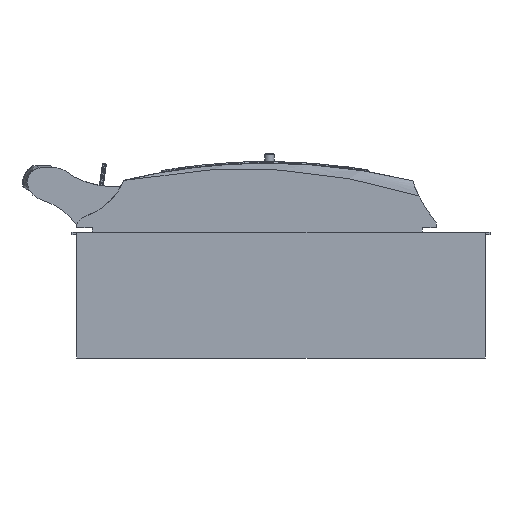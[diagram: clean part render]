
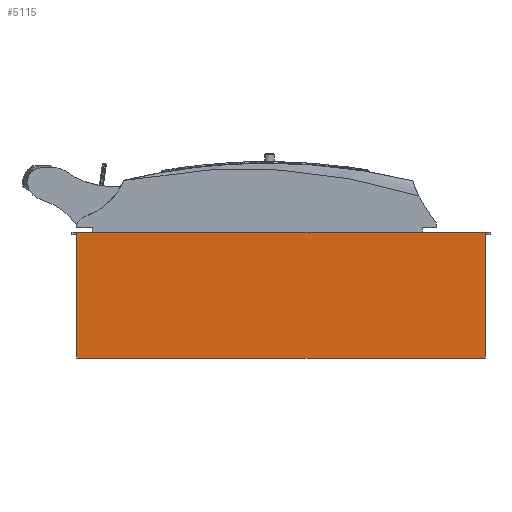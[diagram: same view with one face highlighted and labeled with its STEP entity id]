
A CAD part, front view. The second image highlights one B-rep face of the part: STEP entity #5115.
In plain terms, the highlighted planar face has unit normal (0, -1, 0).
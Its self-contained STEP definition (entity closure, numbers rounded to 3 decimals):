
#4099=PLANE('',#13776);
#5115=ADVANCED_FACE('',(#5770),#4099,.F.);
#5770=FACE_OUTER_BOUND('',#6374,.T.);
#6374=EDGE_LOOP('',(#9890,#9891,#9892,#9893));
#6919=LINE('',#25427,#7473);
#6923=LINE('',#25436,#7477);
#6924=LINE('',#25438,#7478);
#6925=LINE('',#25440,#7479);
#7473=VECTOR('',#15627,1.);
#7477=VECTOR('',#15633,1.);
#7478=VECTOR('',#15634,1.);
#7479=VECTOR('',#15635,1.);
#9890=ORIENTED_EDGE('',*,*,#12430,.T.);
#9891=ORIENTED_EDGE('',*,*,#12434,.F.);
#9892=ORIENTED_EDGE('',*,*,#12435,.F.);
#9893=ORIENTED_EDGE('',*,*,#12436,.T.);
#11114=VERTEX_POINT('',#25428);
#11115=VERTEX_POINT('',#25429);
#11118=VERTEX_POINT('',#25437);
#11119=VERTEX_POINT('',#25439);
#12430=EDGE_CURVE('',#11114,#11115,#6919,.T.);
#12434=EDGE_CURVE('',#11118,#11115,#6923,.T.);
#12435=EDGE_CURVE('',#11119,#11118,#6924,.T.);
#12436=EDGE_CURVE('',#11119,#11114,#6925,.T.);
#13776=AXIS2_PLACEMENT_3D('',#25441,#15636,#15637);
#15627=DIRECTION('',(1.,0.,0.));
#15633=DIRECTION('',(0.,0.,-1.));
#15634=DIRECTION('',(1.,0.,0.));
#15635=DIRECTION('',(0.,0.,-1.));
#15636=DIRECTION('',(0.,1.,0.));
#15637=DIRECTION('',(0.,0.,1.));
#25427=CARTESIAN_POINT('',(150.828,-104.,116.103));
#25428=CARTESIAN_POINT('',(-109.172,-104.,116.103));
#25429=CARTESIAN_POINT('',(150.828,-104.,116.103));
#25436=CARTESIAN_POINT('',(150.828,-104.,196.103));
#25437=CARTESIAN_POINT('',(150.828,-104.,196.103));
#25438=CARTESIAN_POINT('',(150.828,-104.,196.103));
#25439=CARTESIAN_POINT('',(-109.172,-104.,196.103));
#25440=CARTESIAN_POINT('',(-109.172,-104.,196.103));
#25441=CARTESIAN_POINT('',(150.828,-104.,196.103));
